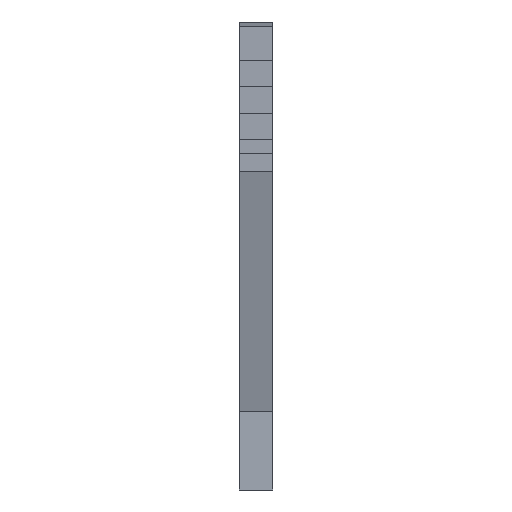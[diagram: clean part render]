
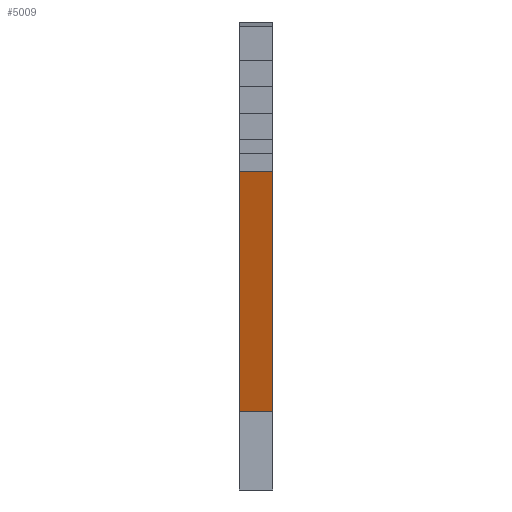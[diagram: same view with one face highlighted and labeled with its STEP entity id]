
A CAD part, left-side view. The second image highlights one B-rep face of the part: STEP entity #5009.
In plain terms, the highlighted planar face has unit normal (-0.028, 0, 1).
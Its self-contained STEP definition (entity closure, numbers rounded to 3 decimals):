
#668=DIRECTION('',(1.,0.,0.028));
#669=VECTOR('',#668,759.956);
#670=CARTESIAN_POINT('',(603.825,-19.,-56.191));
#671=LINE('',#670,#669);
#1330=DIRECTION('',(1.,0.,0.028));
#1331=VECTOR('',#1330,759.956);
#1332=CARTESIAN_POINT('',(603.825,-16.,-56.191));
#1333=LINE('',#1332,#1331);
#1882=DIRECTION('',(0.,1.,0.));
#1883=VECTOR('',#1882,3.);
#1884=CARTESIAN_POINT('',(603.825,-19.,-56.191));
#1885=LINE('',#1884,#1883);
#1886=DIRECTION('',(0.,1.,0.));
#1887=VECTOR('',#1886,3.);
#1888=CARTESIAN_POINT('',(1363.476,-19.,-34.657));
#1889=LINE('',#1888,#1887);
#2074=CARTESIAN_POINT('',(603.825,-19.,-56.191));
#2076=VERTEX_POINT('',#2074);
#2078=CARTESIAN_POINT('',(603.825,-16.,-56.191));
#2080=VERTEX_POINT('',#2078);
#2398=CARTESIAN_POINT('',(1363.476,-19.,-34.657));
#2399=CARTESIAN_POINT('',(1363.476,-16.,-34.657));
#2400=VERTEX_POINT('',#2398);
#2401=VERTEX_POINT('',#2399);
#4998=CARTESIAN_POINT('',(-66.623,-19.,-75.197));
#4999=DIRECTION('',(-0.028,0.,1.));
#5000=DIRECTION('',(1.,0.,0.028));
#5001=AXIS2_PLACEMENT_3D('',#4998,#4999,#5000);
#5002=PLANE('',#5001);
#5003=ORIENTED_EDGE('',*,*,#4915,.T.);
#5004=ORIENTED_EDGE('',*,*,#2797,.T.);
#5005=ORIENTED_EDGE('',*,*,#4951,.F.);
#5006=ORIENTED_EDGE('',*,*,#2409,.F.);
#5007=EDGE_LOOP('',(#5003,#5004,#5005,#5006));
#5008=FACE_OUTER_BOUND('',#5007,.F.);
#5009=ADVANCED_FACE('',(#5008),#5002,.T.);
#2409=EDGE_CURVE('',#2076,#2400,#671,.T.);
#2797=EDGE_CURVE('',#2080,#2401,#1333,.T.);
#4915=EDGE_CURVE('',#2076,#2080,#1885,.T.);
#4951=EDGE_CURVE('',#2400,#2401,#1889,.T.);
